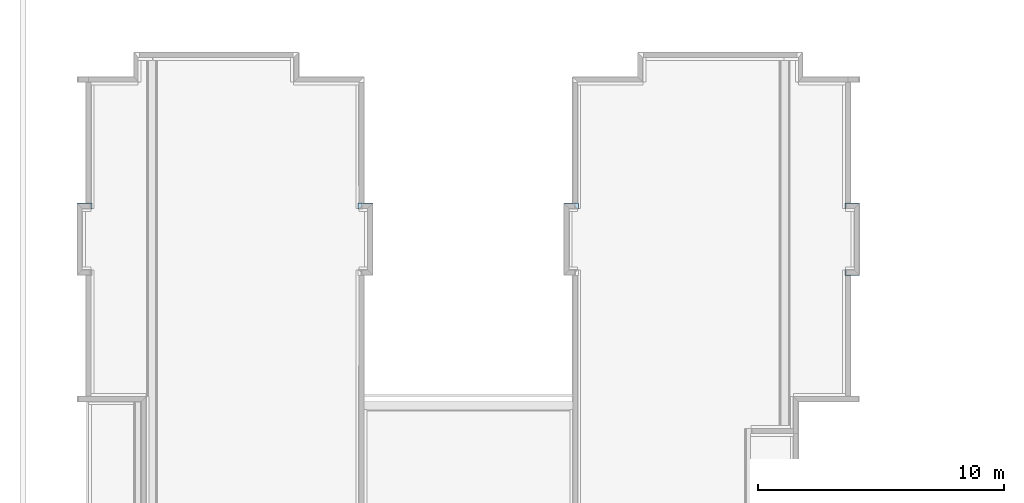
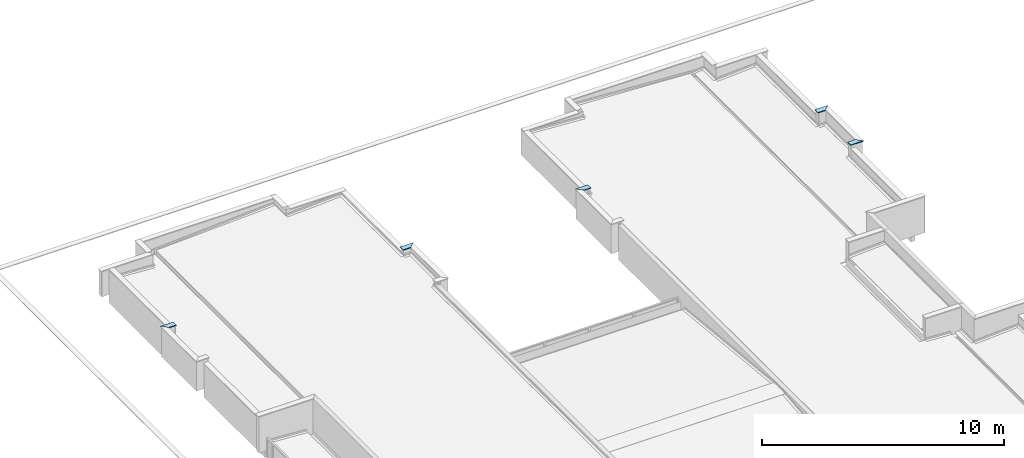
# One storey, part 23 of 25: 5 roofs.
"""IFC4 building model written with IfcOpenShell, lengths in metres."""

import ifcopenshell
import ifcopenshell.guid

model = None  # the IFC model being written
_history = None  # IfcOwnerHistory: only IFC2X3 demands one
_inside = {}  # id of a spatial element -> (the spatial element, [elements in it])
_under = {}  # id of a project, library or spatial element -> (it, [spatial elements below it])
_declared = {}  # id of a project -> (the project, [libraries it declares])
_typed = {}  # id of a type object -> (the type object, [elements of that type])
_made_of = {}  # id of a material, layer set ... -> (it, [elements and type objects made of it])


def new_model(schema):
    """Start an empty IFC model of exactly this schema.

    Asked for "IFC4X3", IfcOpenShell would pick the latest addendum, in which some entities
    have other attributes; the version numbers below select the first issue.
    IFC2X3 requires an IfcOwnerHistory on every rooted entity: one is made here for all.
    """
    global model, _history
    if schema == "IFC4X3":
        model = ifcopenshell.file(schema_version=(4, 3, 0, 0))
    else:
        model = ifcopenshell.file(schema=schema)
    _inside.clear()
    _under.clear()
    _declared.clear()
    _typed.clear()
    _made_of.clear()
    _history = None
    if model.schema == "IFC2X3":
        org = make("IfcOrganization", Name="unknown")
        user = make(
            "IfcPersonAndOrganization",
            ThePerson=make("IfcPerson", FamilyName="unknown"),
            TheOrganization=org,
        )
        app = make(
            "IfcApplication",
            ApplicationDeveloper=org,
            Version="unknown",
            ApplicationFullName="unknown",
            ApplicationIdentifier="unknown",
        )
        _history = make(
            "IfcOwnerHistory",
            OwningUser=user,
            OwningApplication=app,
            ChangeAction="ADDED",
            CreationDate=0,
        )
    return model


def make(cls, **values):
    """One entity of the class cls with the attributes given. An attribute that is None is left unset."""
    return model.create_entity(
        cls, **{name: value for name, value in values.items() if value is not None}
    )


def entity(cls, *values):
    """Any entity or typed value of the class cls, its attributes in the order of the schema. None: left unset."""
    e = model.create_entity(cls)
    for i, value in enumerate(values):
        if value is not None:
            e[i] = value
    return e


def rooted(cls, **values):
    """An entity with a GlobalId (a new one), such as an element, a storey or a relation."""
    return make(cls, GlobalId=ifcopenshell.guid.new(), OwnerHistory=_history, **values)


def si_unit(unit_type, name, prefix=None):
    """IfcSIUnit, for example si_unit("LENGTHUNIT", "METRE", prefix="MILLI")."""
    return make("IfcSIUnit", UnitType=unit_type, Prefix=prefix, Name=name)


def converted_unit(unit_type, name, factor, base, dimensions=None, offset=None):
    """IfcConversionBasedUnit, such as the inch: factor (a typed value) times the base unit."""
    return make(
        "IfcConversionBasedUnit"
        if offset is None
        else "IfcConversionBasedUnitWithOffset",
        ConversionOffset=offset,
        Dimensions=None
        if dimensions is None
        else entity("IfcDimensionalExponents", *dimensions),
        UnitType=unit_type,
        Name=name,
        ConversionFactor=make(
            "IfcMeasureWithUnit", ValueComponent=factor, UnitComponent=base
        ),
    )


def derived_unit(unit_type, elements):
    """IfcDerivedUnit: a product of units, each with its exponent."""
    return make(
        "IfcDerivedUnit",
        Elements=[
            make("IfcDerivedUnitElement", Unit=unit, Exponent=power)
            for unit, power in elements
        ],
        UnitType=unit_type,
    )


def assignment(units):
    """IfcUnitAssignment: the units of a project."""
    return None if units is None else make("IfcUnitAssignment", Units=units)


def point(xyz):
    """IfcCartesianPoint."""
    return None if xyz is None else make("IfcCartesianPoint", Coordinates=xyz)


def direction(xyz):
    """IfcDirection."""
    return None if xyz is None else make("IfcDirection", DirectionRatios=xyz)


def frame(location, z_axis=None, x_axis=None):
    """IfcAxis2Placement3D, a coordinate frame: its origin and axes. An axis left out is left unset."""
    return make(
        "IfcAxis2Placement3D",
        Location=point(location),
        Axis=direction(z_axis),
        RefDirection=direction(x_axis),
    )


def origin_with_axes():
    """The frame at (0, 0, 0) with the z axis (0, 0, 1) and the x axis (1, 0, 0) written out."""
    return frame((0.0, 0.0, 0.0), z_axis=(0.0, 0.0, 1.0), x_axis=(1.0, 0.0, 0.0))


def place(relative_to, where):
    """IfcLocalPlacement: puts the frame where relative to a parent placement (None: the world)."""
    return make(
        "IfcLocalPlacement", PlacementRelTo=relative_to, RelativePlacement=where
    )


def context(
    kind, dimensions, precision=None, world=None, true_north=None, identifier=None
):
    """IfcGeometricRepresentationContext, for example the 3D "Model" context."""
    return make(
        "IfcGeometricRepresentationContext",
        ContextIdentifier=identifier,
        ContextType=kind,
        CoordinateSpaceDimension=dimensions,
        Precision=precision,
        WorldCoordinateSystem=world,
        TrueNorth=true_north,
    )


def subcontext(parent, identifier, kind, view, scale=None):
    """IfcGeometricRepresentationSubContext, for example "Body" below "Model"."""
    return make(
        "IfcGeometricRepresentationSubContext",
        ContextIdentifier=identifier,
        ContextType=kind,
        ParentContext=parent,
        TargetScale=scale,
        TargetView=view,
    )


def project(units=None, contexts=None):
    """IfcProject with its units and contexts."""
    return rooted(
        "IfcProject",
        Name="project",
        RepresentationContexts=contexts,
        UnitsInContext=assignment(units),
    )


def spatial(cls, under=None, at=None, **own):
    """A site, building, storey or space (cls), placed at a placement, below another one or the project."""
    s = rooted(cls, ObjectPlacement=at, **own)
    if under is not None:
        _under.setdefault(under.id(), (under, []))[1].append(s)
    return s


def point_list(points):
    """IfcCartesianPointList2D or 3D."""
    cls = (
        "IfcCartesianPointList2D" if len(points[0]) == 2 else "IfcCartesianPointList3D"
    )
    return make(cls, CoordList=points)


def polygons(points, faces, closed=None, point_numbers=None):
    """IfcPolygonalFaceSet: a face is its outer loop, then its inner loops; points numbered from 1."""
    made = []
    for loops in faces:
        if len(loops) == 1:
            made.append(make("IfcIndexedPolygonalFace", CoordIndex=loops[0]))
        else:
            made.append(
                make(
                    "IfcIndexedPolygonalFaceWithVoids",
                    CoordIndex=loops[0],
                    InnerCoordIndices=loops[1:],
                )
            )
    return make(
        "IfcPolygonalFaceSet",
        Coordinates=point_list(points),
        Closed=closed,
        Faces=made,
        PnIndex=point_numbers,
    )


def shape(context_of_items, identifier, shape_type, items):
    """IfcShapeRepresentation: the items that make up one representation, for example the "Body"."""
    return make(
        "IfcShapeRepresentation",
        ContextOfItems=context_of_items,
        RepresentationIdentifier=identifier,
        RepresentationType=shape_type,
        Items=items,
    )


def material(Name=None, Category=None):
    """IfcMaterial."""
    return make("IfcMaterial", Name=Name, Category=Category)


def constituent(of_material, Name=None, Category=None, fraction=None):
    """IfcMaterialConstituent: one of the materials an element consists of."""
    return make(
        "IfcMaterialConstituent",
        Name=Name,
        Material=of_material,
        Fraction=fraction,
        Category=Category,
    )


def constituent_set(constituents=None, Name=None):
    """IfcMaterialConstituentSet."""
    return make(
        "IfcMaterialConstituentSet", Name=Name, MaterialConstituents=constituents
    )


def made_of(thing, what):
    """Note that an element or type object is made of a material, layer set ...; save() writes the relation."""
    if what is not None:
        _made_of.setdefault(what.id(), (what, []))[1].append(thing)
    return thing


def type_object(cls, material=None, **own):
    """A type object (cls), such as IfcWallType, which elements share."""
    return made_of(rooted(cls, **own), material)


def element(
    cls,
    number,
    at=None,
    inside=None,
    cuts=None,
    type_object=None,
    material=None,
    context=None,
    identifier="Body",
    shape_type=None,
    held_by="IfcProductDefinitionShape",
    body=None,
    shapes=None,
    **own,
):
    """One element of the class cls, such as IfcWall. Its Tag is "e" and its number.

    at: its placement. inside: the storey or other place that contains it. cuts: it is an
    opening in that element (IfcRelVoidsElement). A single representation is given by context,
    identifier, shape_type and body (its items); several are given by shapes. held_by: the class
    of the entity that holds the representations. save() writes the other relations.
    """
    e = rooted(cls, Tag="e%d" % number, ObjectPlacement=at, **own)
    if body is not None:
        shapes = [shape(context, identifier, shape_type, body)]
    if shapes is not None:
        e.Representation = make(held_by, Representations=shapes)
    if inside is not None:
        _inside.setdefault(inside.id(), (inside, []))[1].append(e)
    if cuts is not None:
        rooted(
            "IfcRelVoidsElement", RelatingBuildingElement=cuts, RelatedOpeningElement=e
        )
    if type_object is not None:
        _typed.setdefault(type_object.id(), (type_object, []))[1].append(e)
    return made_of(e, material)


def aggregate(whole, parts):
    """IfcRelAggregates: a whole, such as a stair, and the parts it consists of."""
    return rooted("IfcRelAggregates", RelatingObject=whole, RelatedObjects=parts)


def save(model, path):
    """Write the relations noted so far, then the file.

    IfcRelAggregates (storeys below a building ...), IfcRelContainedInSpatialStructure (elements
    in a storey), IfcRelDefinesByType, IfcRelAssociatesMaterial and IfcRelDeclares: one each for
    every whole, place, type object, material and project.
    """
    for whole, parts in _under.values():
        aggregate(whole, parts)
    for where, things in _inside.values():
        rooted(
            "IfcRelContainedInSpatialStructure",
            RelatedElements=things,
            RelatingStructure=where,
        )
    for kind, things in _typed.values():
        rooted("IfcRelDefinesByType", RelatedObjects=things, RelatingType=kind)
    for what, things in _made_of.values():
        rooted("IfcRelAssociatesMaterial", RelatedObjects=things, RelatingMaterial=what)
    for by, libraries in _declared.values():
        rooted("IfcRelDeclares", RelatingContext=by, RelatedDefinitions=libraries)
    model.write(path)


model = new_model("IFC4")

# Units and contexts
model_context = context("Model", 3, precision=1e-05, world=origin_with_axes(), true_north=direction((0.0, 1.0)))
body_context = subcontext(model_context, "Body", "Model", "MODEL_VIEW")
ifc_project = project(units=[si_unit("LENGTHUNIT", "METRE"), si_unit("AREAUNIT", "SQUARE_METRE"), si_unit("VOLUMEUNIT", "CUBIC_METRE"), converted_unit("PLANEANGLEUNIT", "DEGREE", entity("IfcPlaneAngleMeasure", 0.0174532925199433), si_unit("PLANEANGLEUNIT", "RADIAN"), dimensions=[0, 0, 0, 0, 0, 0, 0]), converted_unit("TIMEUNIT", "Year", entity("IfcTimeMeasure", 31557600.0), si_unit("TIMEUNIT", "SECOND"), dimensions=[0, 0, 1, 0, 0, 0, 0]), si_unit("MASSUNIT", "GRAM", prefix="KILO"), si_unit("THERMODYNAMICTEMPERATUREUNIT", "DEGREE_CELSIUS"), si_unit("LUMINOUSINTENSITYUNIT", "LUMEN"), si_unit("ENERGYUNIT", "JOULE", prefix="MEGA"), derived_unit("THERMALCONDUCTANCEUNIT", [(si_unit("POWERUNIT", "WATT"), 1), (si_unit("LENGTHUNIT", "METRE"), -1), (si_unit("THERMODYNAMICTEMPERATUREUNIT", "KELVIN"), -1)]), derived_unit("SPECIFICHEATCAPACITYUNIT", [(si_unit("ENERGYUNIT", "JOULE"), 1), (si_unit("MASSUNIT", "GRAM", prefix="KILO"), -1), (si_unit("THERMODYNAMICTEMPERATUREUNIT", "KELVIN"), -1)]), derived_unit("MASSDENSITYUNIT", [(si_unit("MASSUNIT", "GRAM", prefix="KILO"), 1), (si_unit("VOLUMEUNIT", "CUBIC_METRE"), -1)])], contexts=[model_context])

# Site, building, storey
site_placement = place(None, origin_with_axes())
site = spatial("IfcSite", under=ifc_project, at=site_placement, Name="PADRÃO", CompositionType="ELEMENT")
building_placement = place(site_placement, origin_with_axes())
building = spatial("IfcBuilding", under=site, at=building_placement, Name="CRECHE PRÉ-ESCOLA TIPO 2", CompositionType="ELEMENT")
storey_placement = place(building_placement, frame((0.0, 0.0, 3.26), z_axis=(0.0, 0.0, 1.0), x_axis=(1.0, 0.0, 0.0)))
storey = spatial("IfcBuildingStorey", under=building, at=storey_placement, Name="COBERTURA", CompositionType="ELEMENT", Elevation=3.26)

# Roofs
ifc_material = material(Name="PINGADEIRA EM CHAPA DE AÇO GALVANIZADO")
ifc_constituent_1 = constituent(ifc_material, Name="PINGADEIRA EM CHAPA DE AÇO GALVANIZADO 1")
ifc_constituent_2 = constituent(ifc_material, Name="PINGADEIRA EM CHAPA DE AÇO GALVANIZADO 2")
ifc_constituent_set_1 = constituent_set(constituents=[ifc_constituent_1, ifc_constituent_2])
roof_type_1 = type_object("IfcRoofType", Name="Várias Estruturas- 2 Segmentos - 250 x 40 x 609 (1+608)", PredefinedType="NOTDEFINED")
roof_1_placement = place(storey_placement, frame((-6.47481330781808, 34.7995618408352, 1.51), z_axis=(0.0, 0.0, 1.0), x_axis=(-3.66371997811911e-05, -0.999999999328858, 0.0)))
element("IfcRoof", 1, at=roof_1_placement, inside=storey, type_object=roof_type_1, material=ifc_constituent_set_1, Name="V01", PredefinedType="NOTDEFINED", context=body_context, shape_type="Tessellation", body=[
    polygons([(-0.0250000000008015, 0.0, -0.0300000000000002), (-0.0250000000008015, 0.00100000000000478, -0.0300000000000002), (0.225037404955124, 0.00100000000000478, -0.0300000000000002), (0.225037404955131, 0.0, -0.0300000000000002), (-0.0250000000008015, 0.0, 0.00999999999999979), (-0.0250000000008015, 0.00100000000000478, 0.00999999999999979), (0.225037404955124, 0.00100000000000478, 0.00999999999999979), (0.225037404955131, 0.0, 0.00999999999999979)], [[[1, 2, 3, 4]], [[5, 6, 2, 1]], [[3, 2, 6, 7]], [[4, 3, 7, 8]], [[5, 1, 4, 8]], [[8, 7, 6, 5]]], closed=True),
    polygons([(-0.00546259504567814, 0.00100000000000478, -0.01756537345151), (-0.00546259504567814, 0.589408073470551, -0.01756537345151), (-0.0240000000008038, 0.607945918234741, -0.0282679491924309), (-0.0240000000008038, 0.000999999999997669, -0.0282679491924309), (-0.00496259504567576, 0.00100000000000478, -0.0184313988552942), (-0.00496259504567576, 0.588908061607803, -0.0184313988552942), (0.205499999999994, 0.378440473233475, -0.01756537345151), (0.224036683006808, 0.359903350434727, -0.0282675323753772), (0.224021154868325, 0.359918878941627, 0.00900000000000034), (-0.0240000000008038, 0.607945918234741, 0.00900000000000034), (-0.0250000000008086, 0.608945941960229, -0.0300000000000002), (-0.0250000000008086, 0.608945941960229, 0.00999999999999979), (0.225020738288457, 0.358919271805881, 0.00999999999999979), (0.225037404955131, 0.358902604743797, -0.0300000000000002), (0.204999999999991, 0.378940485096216, -0.0184313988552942), (-0.0240000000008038, 0.000999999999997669, 0.00900000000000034), (0.225037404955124, 0.000999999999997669, -0.0300000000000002), (0.225020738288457, 0.000999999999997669, 0.00999999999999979), (-0.0250000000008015, 0.00100000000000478, 0.00999999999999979), (-0.0250000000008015, 0.00100000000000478, -0.0300000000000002), (0.224021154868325, 0.000999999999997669, 0.00900000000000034), (0.224036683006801, 0.000999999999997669, -0.0282675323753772), (0.205499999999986, 0.000999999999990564, -0.01756537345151), (0.204999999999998, 0.000999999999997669, -0.0184313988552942)], [[[1, 2, 3, 4]], [[5, 6, 2, 1]], [[7, 8, 9, 10, 3, 2, 6, 11, 12, 13, 14, 15]], [[4, 3, 10, 16]], [[17, 18, 19, 20, 5, 1, 4, 16, 21, 22, 23, 24]], [[20, 11, 6, 5]], [[22, 8, 7, 23]], [[21, 9, 8, 22]], [[16, 10, 9, 21]], [[19, 12, 11, 20]], [[18, 13, 12, 19]], [[17, 14, 13, 18]], [[24, 15, 14, 17]], [[23, 7, 15, 24]]], closed=True),
])
ifc_constituent_3 = constituent(ifc_material, Name="PINGADEIRA EM CHAPA DE AÇO GALVANIZADO 1")
ifc_constituent_4 = constituent(ifc_material, Name="PINGADEIRA EM CHAPA DE AÇO GALVANIZADO 2")
ifc_constituent_set_2 = constituent_set(constituents=[ifc_constituent_3, ifc_constituent_4])
roof_2_placement = place(storey_placement, frame((-17.3060418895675, 34.8000019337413, 1.51), z_axis=(0.0, 0.0, 1.0), x_axis=(0.0, 1.0, 0.0)))
element("IfcRoof", 2, at=roof_2_placement, inside=storey, type_object=roof_type_1, material=ifc_constituent_set_2, Name="V01", PredefinedType="NOTDEFINED", context=body_context, shape_type="Tessellation", body=[
    polygons([(0.0250000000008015, 0.0, 0.00999999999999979), (0.0250000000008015, 0.00100000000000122, 0.00999999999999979), (-0.225037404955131, 0.00100000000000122, 0.00999999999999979), (-0.225037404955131, 0.0, 0.00999999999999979), (0.0250000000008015, 0.0, -0.0300000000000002), (0.0250000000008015, 0.00100000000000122, -0.0300000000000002), (-0.225037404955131, 0.00100000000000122, -0.0300000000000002), (-0.225037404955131, 0.0, -0.0300000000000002)], [[[1, 2, 3, 4]], [[5, 6, 2, 1]], [[3, 2, 6, 7]], [[4, 3, 7, 8]], [[5, 1, 4, 8]], [[8, 7, 6, 5]]], closed=True),
    polygons([(0.00496259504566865, 0.00100000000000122, -0.0184313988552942), (0.00496259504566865, 0.588933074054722, -0.0184313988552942), (0.0250000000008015, 0.608970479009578, -0.0300000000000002), (0.0250000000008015, 0.00100000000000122, -0.0300000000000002), (0.00546259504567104, 0.00100000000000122, -0.01756537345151), (0.00546259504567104, 0.589433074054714, -0.01756537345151), (-0.204999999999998, 0.378970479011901, -0.0184313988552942), (-0.225037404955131, 0.358933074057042, -0.0300000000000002), (-0.225020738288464, 0.358949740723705, 0.00999999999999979), (0.0250000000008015, 0.608970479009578, 0.00999999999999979), (0.0240000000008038, 0.607970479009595, -0.0282679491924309), (0.0240000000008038, 0.607970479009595, 0.00900000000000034), (-0.224021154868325, 0.35994932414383, 0.00900000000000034), (-0.224036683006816, 0.359933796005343, -0.0282675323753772), (-0.205500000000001, 0.378470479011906, -0.01756537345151), (0.0250000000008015, 0.00100000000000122, 0.00999999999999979), (-0.224036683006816, 0.00100000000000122, -0.0282675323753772), (-0.224021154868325, 0.00100000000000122, 0.00900000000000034), (0.0240000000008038, 0.00100000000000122, 0.00900000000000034), (0.0240000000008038, 0.00100000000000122, -0.0282679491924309), (-0.225020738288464, 0.00100000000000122, 0.00999999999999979), (-0.225037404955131, 0.00100000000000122, -0.0300000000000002), (-0.204999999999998, 0.00100000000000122, -0.0184313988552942), (-0.205500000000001, 0.00100000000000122, -0.01756537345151)], [[[1, 2, 3, 4]], [[5, 6, 2, 1]], [[7, 8, 9, 10, 3, 2, 6, 11, 12, 13, 14, 15]], [[4, 3, 10, 16]], [[17, 18, 19, 20, 5, 1, 4, 16, 21, 22, 23, 24]], [[20, 11, 6, 5]], [[22, 8, 7, 23]], [[21, 9, 8, 22]], [[16, 10, 9, 21]], [[19, 12, 11, 20]], [[18, 13, 12, 19]], [[17, 14, 13, 18]], [[24, 15, 14, 17]], [[23, 7, 15, 24]]], closed=True),
])
ifc_constituent_5 = constituent(ifc_material, Name="PINGADEIRA EM CHAPA DE AÇO GALVANIZADO 1")
ifc_constituent_6 = constituent(ifc_material, Name="PINGADEIRA EM CHAPA DE AÇO GALVANIZADO 2")
ifc_constituent_set_3 = constituent_set(constituents=[ifc_constituent_5, ifc_constituent_6])
roof_3_placement = place(storey_placement, frame((-26.2734982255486, 34.8000019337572, 1.51), z_axis=(0.0, 0.0, 1.0), x_axis=(0.0, -1.0, 0.0)))
element("IfcRoof", 3, at=roof_3_placement, inside=storey, type_object=roof_type_1, material=ifc_constituent_set_3, Name="V01", PredefinedType="NOTDEFINED", context=body_context, shape_type="Tessellation", body=[
    polygons([(-0.0250000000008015, 0.0, -0.0300000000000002), (-0.0250000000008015, 0.000999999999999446, -0.0300000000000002), (0.225037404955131, 0.000999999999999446, -0.0300000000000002), (0.225037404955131, 0.0, -0.0300000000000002), (-0.0250000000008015, 0.0, 0.00999999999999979), (-0.0250000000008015, 0.000999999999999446, 0.00999999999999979), (0.225037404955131, 0.000999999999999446, 0.00999999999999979), (0.225037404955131, 0.0, 0.00999999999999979)], [[[1, 2, 3, 4]], [[5, 6, 2, 1]], [[3, 2, 6, 7]], [[4, 3, 7, 8]], [[5, 1, 4, 8]], [[8, 7, 6, 5]]], closed=True),
    polygons([(-0.00546259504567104, 0.000999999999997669, -0.01756537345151), (-0.00546259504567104, 0.58943307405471, -0.01756537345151), (-0.0240000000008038, 0.607970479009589, -0.0282679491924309), (-0.0240000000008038, 0.000999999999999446, -0.0282679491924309), (-0.00496259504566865, 0.000999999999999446, -0.0184313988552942), (-0.00496259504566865, 0.588933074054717, -0.0184313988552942), (0.205500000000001, 0.378470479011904, -0.01756537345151), (0.224036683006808, 0.359933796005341, -0.0282675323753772), (0.224021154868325, 0.359949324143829, 0.00900000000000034), (-0.0240000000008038, 0.607970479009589, 0.00900000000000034), (-0.0250000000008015, 0.608970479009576, -0.0300000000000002), (-0.0250000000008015, 0.608970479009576, 0.00999999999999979), (0.225020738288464, 0.358949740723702, 0.00999999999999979), (0.225037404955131, 0.35893307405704, -0.0300000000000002), (0.205000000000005, 0.378970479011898, -0.0184313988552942), (-0.0240000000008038, 0.000999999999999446, 0.00900000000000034), (0.225037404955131, 0.000999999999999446, -0.0300000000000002), (0.225020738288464, 0.000999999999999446, 0.00999999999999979), (-0.0250000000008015, 0.000999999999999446, 0.00999999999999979), (-0.0250000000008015, 0.000999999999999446, -0.0300000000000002), (0.224021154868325, 0.000999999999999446, 0.00900000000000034), (0.224036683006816, 0.000999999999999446, -0.0282675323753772), (0.205500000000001, 0.000999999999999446, -0.01756537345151), (0.204999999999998, 0.000999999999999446, -0.0184313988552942)], [[[1, 2, 3, 4]], [[5, 6, 2, 1]], [[7, 8, 9, 10, 3, 2, 6, 11, 12, 13, 14, 15]], [[4, 3, 10, 16]], [[17, 18, 19, 20, 5, 1, 4, 16, 21, 22, 23, 24]], [[20, 11, 6, 5]], [[22, 8, 7, 23]], [[21, 9, 8, 22]], [[16, 10, 9, 21]], [[19, 12, 11, 20]], [[18, 13, 12, 19]], [[17, 14, 13, 18]], [[24, 15, 14, 17]], [[23, 7, 15, 24]]], closed=True),
])
ifc_constituent_7 = constituent(ifc_material, Name="PINGADEIRA EM CHAPA DE AÇO GALVANIZADO 1")
ifc_constituent_8 = constituent(ifc_material, Name="PINGADEIRA EM CHAPA DE AÇO GALVANIZADO 2")
ifc_constituent_set_4 = constituent_set(constituents=[ifc_constituent_7, ifc_constituent_8])
roof_type_2 = type_object("IfcRoofType", Name="Várias Estruturas- 2 Segmentos - 250 x 40 x 609 (608+1)", PredefinedType="NOTDEFINED")
roof_4_placement = place(storey_placement, frame((-5.89104301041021, 31.8995399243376, 1.51), z_axis=(0.0, 0.0, 1.0), x_axis=(3.64143848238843e-05, 0.999999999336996, 0.0)))
element("IfcRoof", 4, at=roof_4_placement, inside=storey, type_object=roof_type_2, material=ifc_constituent_set_4, Name="V01", PredefinedType="NOTDEFINED", context=body_context, shape_type="Tessellation", body=[
    polygons([(-0.00546259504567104, -0.00546246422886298, -0.01756537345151), (-0.00546259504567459, 0.582945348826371, -0.01756537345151), (-0.0240000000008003, 0.582945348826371, -0.0282679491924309), (-0.0240000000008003, -0.0239994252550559, -0.0282679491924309), (-0.0049625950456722, -0.00496247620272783, -0.0184313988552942), (-0.0049625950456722, 0.582945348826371, -0.0184313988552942), (0.205500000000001, 0.582945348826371, -0.01756537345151), (0.224036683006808, 0.582945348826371, -0.0282675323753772), (0.224021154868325, 0.582945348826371, 0.00900000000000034), (-0.0240000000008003, 0.582945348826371, 0.00900000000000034), (-0.0250000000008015, 0.582945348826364, -0.0300000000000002), (-0.0250000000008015, 0.582945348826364, 0.00999999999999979), (0.225020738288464, 0.582945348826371, 0.00999999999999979), (0.225037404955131, 0.582945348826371, -0.0300000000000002), (0.204999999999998, 0.582945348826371, -0.0184313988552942), (-0.0240000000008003, -0.0239994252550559, 0.00900000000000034), (0.225037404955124, 0.225032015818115, -0.0300000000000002), (0.225020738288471, 0.225015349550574, 0.00999999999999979), (-0.025000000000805, -0.0249994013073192, 0.00999999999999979), (-0.025000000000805, -0.0249994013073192, -0.0300000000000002), (0.224021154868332, 0.224015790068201, 0.00900000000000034), (0.224036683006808, 0.224031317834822, -0.0282675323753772), (0.205500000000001, 0.205495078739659, -0.01756537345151), (0.205000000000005, 0.204995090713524, -0.0184313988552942)], [[[1, 2, 3, 4]], [[5, 6, 2, 1]], [[7, 8, 9, 10, 3, 2, 6, 11, 12, 13, 14, 15]], [[4, 3, 10, 16]], [[17, 18, 19, 20, 5, 1, 4, 16, 21, 22, 23, 24]], [[20, 11, 6, 5]], [[22, 8, 7, 23]], [[21, 9, 8, 22]], [[16, 10, 9, 21]], [[19, 12, 11, 20]], [[18, 13, 12, 19]], [[17, 14, 13, 18]], [[24, 15, 14, 17]], [[23, 7, 15, 24]]], closed=True),
    polygons([(-0.0250000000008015, 0.582945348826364, -0.0300000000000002), (-0.0250000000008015, 0.583945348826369, -0.0300000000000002), (0.225037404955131, 0.583945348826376, -0.0300000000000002), (0.225037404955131, 0.582945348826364, -0.0300000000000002), (-0.0250000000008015, 0.582945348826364, 0.00999999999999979), (-0.0250000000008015, 0.583945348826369, 0.00999999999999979), (0.225037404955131, 0.583945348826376, 0.00999999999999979), (0.225037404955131, 0.582945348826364, 0.00999999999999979)], [[[1, 2, 3, 4]], [[5, 6, 2, 1]], [[3, 2, 6, 7]], [[4, 3, 7, 8]], [[5, 1, 4, 8]], [[8, 7, 6, 5]]], closed=True),
])
ifc_constituent_9 = constituent(ifc_material, Name="PINGADEIRA EM CHAPA DE AÇO GALVANIZADO 1")
ifc_constituent_10 = constituent(ifc_material, Name="PINGADEIRA EM CHAPA DE AÇO GALVANIZADO 2")
ifc_constituent_set_5 = constituent_set(constituents=[ifc_constituent_9, ifc_constituent_10])
roof_type_3 = type_object("IfcRoofType", Name="Várias Estruturas- 2 Segmentos - 250 x 40 x 612 (1+611)", PredefinedType="NOTDEFINED")
roof_5_placement = place(storey_placement, frame((-37.1025919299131, 34.8000019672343, 1.51), z_axis=(0.0, 0.0, 1.0), x_axis=(-5.70112703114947e-08, 0.999999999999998, 0.0)))
element("IfcRoof", 5, at=roof_5_placement, inside=storey, type_object=roof_type_3, material=ifc_constituent_set_5, Name="V01", PredefinedType="NOTDEFINED", context=body_context, shape_type="Tessellation", body=[
    polygons([(0.0250000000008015, 0.0, 0.00999999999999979), (0.0250000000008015, 0.00099999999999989, 0.00999999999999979), (-0.225037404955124, 0.000999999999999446, 0.00999999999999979), (-0.225037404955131, 0.0, 0.00999999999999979), (0.0250000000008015, 0.0, -0.0300000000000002), (0.0250000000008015, 0.00099999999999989, -0.0300000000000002), (-0.225037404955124, 0.000999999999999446, -0.0300000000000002), (-0.225037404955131, 0.0, -0.0300000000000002)], [[[1, 2, 3, 4]], [[5, 6, 2, 1]], [[3, 2, 6, 7]], [[4, 3, 7, 8]], [[5, 1, 4, 8]], [[8, 7, 6, 5]]], closed=True),
    polygons([(0.00496259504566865, 0.00099999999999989, -0.0184313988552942), (0.00496259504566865, 0.592442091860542, -0.0184313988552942), (0.0250000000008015, 0.612479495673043, -0.0300000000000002), (0.0250000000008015, 0.00099999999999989, -0.0300000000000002), (0.00546259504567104, 0.00099999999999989, -0.01756537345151), (0.00546259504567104, 0.59294209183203, -0.01756537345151), (-0.205000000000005, 0.382479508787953, -0.0184313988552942), (-0.225037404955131, 0.362442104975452, -0.0300000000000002), (-0.225020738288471, 0.362458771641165, 0.00999999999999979), (0.0250000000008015, 0.612479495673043, 0.00999999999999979), (0.0240000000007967, 0.611479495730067, -0.0282679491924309), (0.0240000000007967, 0.611479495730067, 0.00900000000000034), (-0.224021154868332, 0.363458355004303, 0.00900000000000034), (-0.224036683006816, 0.363442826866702, -0.0282675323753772), (-0.205500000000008, 0.381979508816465, -0.01756537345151), (0.0250000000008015, 0.00099999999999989, 0.00999999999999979), (-0.224036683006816, 0.00099999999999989, -0.0282675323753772), (-0.224021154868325, 0.000999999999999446, 0.00900000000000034), (0.0240000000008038, 0.00099999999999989, 0.00900000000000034), (0.0240000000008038, 0.00099999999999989, -0.0282679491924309), (-0.225020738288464, 0.00099999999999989, 0.00999999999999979), (-0.225037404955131, 0.000999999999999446, -0.0300000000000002), (-0.204999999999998, 0.000999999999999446, -0.0184313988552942), (-0.205500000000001, 0.000999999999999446, -0.01756537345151)], [[[1, 2, 3, 4]], [[5, 6, 2, 1]], [[7, 8, 9, 10, 3, 2, 6, 11, 12, 13, 14, 15]], [[4, 3, 10, 16]], [[17, 18, 19, 20, 5, 1, 4, 16, 21, 22, 23, 24]], [[20, 11, 6, 5]], [[22, 8, 7, 23]], [[21, 9, 8, 22]], [[16, 10, 9, 21]], [[19, 12, 11, 20]], [[18, 13, 12, 19]], [[17, 14, 13, 18]], [[24, 15, 14, 17]], [[23, 7, 15, 24]]], closed=True),
])

save(model, "model.ifc")
